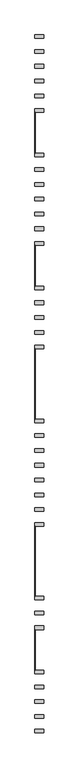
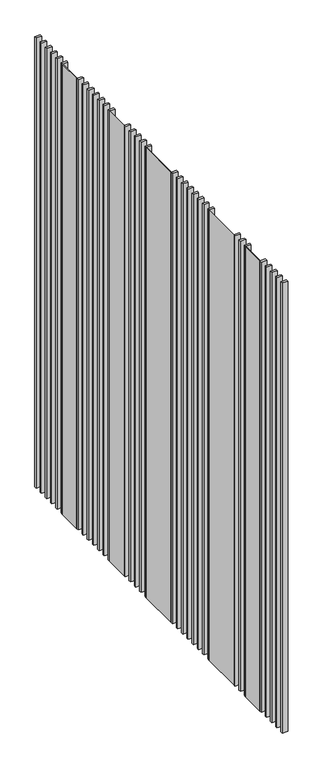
"""IFC4 building model written with IfcOpenShell, lengths in millimetres: railing geometry, 東向隔柵2 : 東向隔柵."""

from ifc_helpers import new_model, si_unit, frame, origin, place, context, project, spatial, polyline, outline, extrude, source, transform, mapped, element, save


def railing_ae81b5d6(model_context):
    return source(origin(), model_context, "Body", "SweptSolid", [
        extrude(outline(polyline([(30465.8689947, 6780.1270122), (30465.8689947, 8160.1270122), (30476.9357364, 8160.1270122), (30476.9357364, 6780.1270122), (30465.8689947, 6780.1270122)])), frame((0.0, 0.0, 2700.0), z_axis=(0.0, 0.0, 1.0), x_axis=(1.0, 0.0, 0.0)), (0.0, 0.0, 1.0), 26200.0),
        extrude(outline(polyline([(30465.8689947, 2276.4950739), (30465.8689947, 3660.1270122), (30476.9357364, 3660.1270122), (30476.9357364, 2276.4950739), (30465.8689947, 2276.4950739)])), frame((0.0, 0.0, 2700.0), z_axis=(0.0, 0.0, 1.0), x_axis=(1.0, 0.0, 0.0)), (0.0, 0.0, 1.0), 26200.0),
        extrude(outline(polyline([(30465.8689947, -2223.5049261), (30465.8689947, 156.4950739), (30476.9357364, 156.4950739), (30476.9357364, -2223.5049261), (30465.8689947, -2223.5049261)])), frame((0.0, 0.0, 2700.0), z_axis=(0.0, 0.0, 1.0), x_axis=(1.0, 0.0, 0.0)), (0.0, 0.0, 1.0), 26200.0),
        extrude(outline(polyline([(30465.8689947, -8223.5049261), (30465.8689947, -5843.5049261), (30476.9357364, -5843.5049261), (30476.9357364, -8223.5049261), (30465.8689947, -8223.5049261)])), frame((0.0, 0.0, 2700.0), z_axis=(0.0, 0.0, 1.0), x_axis=(1.0, 0.0, 0.0)), (0.0, 0.0, 1.0), 26200.0),
        extrude(outline(polyline([(30465.8689947, -10723.5049261), (30465.8689947, -9343.5049261), (30476.9357364, -9343.5049261), (30476.9357364, -10723.5049261), (30465.8689947, -10723.5049261)])), frame((0.0, 0.0, 2700.0), z_axis=(0.0, 0.0, 1.0), x_axis=(1.0, 0.0, 0.0)), (0.0, 0.0, 1.0), 26200.0),
        extrude(outline(polyline([(30465.8689947, 10660.1270122), (30465.8689947, 10780.1270122), (30765.8689947, 10780.1270122), (30765.8689947, 10660.1270122), (30465.8689947, 10660.1270122)])), frame((0.0, 0.0, 2700.0), z_axis=(0.0, 0.0, 1.0), x_axis=(1.0, 0.0, 0.0)), (0.0, 0.0, 1.0), 26200.0),
        extrude(outline(polyline([(30465.8689947, 10160.1270122), (30465.8689947, 10280.1270122), (30765.8689947, 10280.1270122), (30765.8689947, 10160.1270122), (30465.8689947, 10160.1270122)])), frame((0.0, 0.0, 2700.0), z_axis=(0.0, 0.0, 1.0), x_axis=(1.0, 0.0, 0.0)), (0.0, 0.0, 1.0), 26200.0),
        extrude(outline(polyline([(30465.8689947, 9660.1270122), (30465.8689947, 9780.1270122), (30765.8689947, 9780.1270122), (30765.8689947, 9660.1270122), (30465.8689947, 9660.1270122)])), frame((0.0, 0.0, 2700.0), z_axis=(0.0, 0.0, 1.0), x_axis=(1.0, 0.0, 0.0)), (0.0, 0.0, 1.0), 26200.0),
        extrude(outline(polyline([(30465.8689947, 9160.1270122), (30465.8689947, 9280.1270122), (30765.8689947, 9280.1270122), (30765.8689947, 9160.1270122), (30465.8689947, 9160.1270122)])), frame((0.0, 0.0, 2700.0), z_axis=(0.0, 0.0, 1.0), x_axis=(1.0, 0.0, 0.0)), (0.0, 0.0, 1.0), 26200.0),
        extrude(outline(polyline([(30465.8689947, 8660.1270122), (30465.8689947, 8780.1270122), (30765.8689947, 8780.1270122), (30765.8689947, 8660.1270122), (30465.8689947, 8660.1270122)])), frame((0.0, 0.0, 2700.0), z_axis=(0.0, 0.0, 1.0), x_axis=(1.0, 0.0, 0.0)), (0.0, 0.0, 1.0), 26200.0),
        extrude(outline(polyline([(30465.8689947, 8160.1270122), (30465.8689947, 8280.1270122), (30765.8689947, 8280.1270122), (30765.8689947, 8160.1270122), (30465.8689947, 8160.1270122)])), frame((0.0, 0.0, 2700.0), z_axis=(0.0, 0.0, 1.0), x_axis=(1.0, 0.0, 0.0)), (0.0, 0.0, 1.0), 26200.0),
        extrude(outline(polyline([(30465.8689947, 6660.1270122), (30465.8689947, 6780.1270122), (30765.8689947, 6780.1270122), (30765.8689947, 6660.1270122), (30465.8689947, 6660.1270122)])), frame((0.0, 0.0, 2700.0), z_axis=(0.0, 0.0, 1.0), x_axis=(1.0, 0.0, 0.0)), (0.0, 0.0, 1.0), 26200.0),
        extrude(outline(polyline([(30465.8689947, 6160.1270122), (30465.8689947, 6280.1270122), (30765.8689947, 6280.1270122), (30765.8689947, 6160.1270122), (30465.8689947, 6160.1270122)])), frame((0.0, 0.0, 2700.0), z_axis=(0.0, 0.0, 1.0), x_axis=(1.0, 0.0, 0.0)), (0.0, 0.0, 1.0), 26200.0),
        extrude(outline(polyline([(30465.8689947, 5660.1270122), (30465.8689947, 5780.1270122), (30765.8689947, 5780.1270122), (30765.8689947, 5660.1270122), (30465.8689947, 5660.1270122)])), frame((0.0, 0.0, 2700.0), z_axis=(0.0, 0.0, 1.0), x_axis=(1.0, 0.0, 0.0)), (0.0, 0.0, 1.0), 26200.0),
        extrude(outline(polyline([(30465.8689947, 5160.1270122), (30465.8689947, 5280.1270122), (30765.8689947, 5280.1270122), (30765.8689947, 5160.1270122), (30465.8689947, 5160.1270122)])), frame((0.0, 0.0, 2700.0), z_axis=(0.0, 0.0, 1.0), x_axis=(1.0, 0.0, 0.0)), (0.0, 0.0, 1.0), 26200.0),
        extrude(outline(polyline([(30465.8689947, 4660.1270122), (30465.8689947, 4780.1270122), (30765.8689947, 4780.1270122), (30765.8689947, 4660.1270122), (30465.8689947, 4660.1270122)])), frame((0.0, 0.0, 2700.0), z_axis=(0.0, 0.0, 1.0), x_axis=(1.0, 0.0, 0.0)), (0.0, 0.0, 1.0), 26200.0),
        extrude(outline(polyline([(30465.8689947, 4160.1270122), (30465.8689947, 4280.1270122), (30765.8689947, 4280.1270122), (30765.8689947, 4160.1270122), (30465.8689947, 4160.1270122)])), frame((0.0, 0.0, 2700.0), z_axis=(0.0, 0.0, 1.0), x_axis=(1.0, 0.0, 0.0)), (0.0, 0.0, 1.0), 26200.0),
        extrude(outline(polyline([(30465.8689947, 3660.1270122), (30465.8689947, 3780.1270122), (30765.8689947, 3780.1270122), (30765.8689947, 3660.1270122), (30465.8689947, 3660.1270122)])), frame((0.0, 0.0, 2700.0), z_axis=(0.0, 0.0, 1.0), x_axis=(1.0, 0.0, 0.0)), (0.0, 0.0, 1.0), 26200.0),
        extrude(outline(polyline([(30465.8689947, 2156.4950739), (30465.8689947, 2276.4950739), (30765.8689947, 2276.4950739), (30765.8689947, 2156.4950739), (30465.8689947, 2156.4950739)])), frame((0.0, 0.0, 2700.0), z_axis=(0.0, 0.0, 1.0), x_axis=(1.0, 0.0, 0.0)), (0.0, 0.0, 1.0), 26200.0),
        extrude(outline(polyline([(30465.8689947, 1656.4950739), (30465.8689947, 1776.4950739), (30765.8689947, 1776.4950739), (30765.8689947, 1656.4950739), (30465.8689947, 1656.4950739)])), frame((0.0, 0.0, 2700.0), z_axis=(0.0, 0.0, 1.0), x_axis=(1.0, 0.0, 0.0)), (0.0, 0.0, 1.0), 26200.0),
        extrude(outline(polyline([(30465.8689947, 1156.4950739), (30465.8689947, 1276.4950739), (30765.8689947, 1276.4950739), (30765.8689947, 1156.4950739), (30465.8689947, 1156.4950739)])), frame((0.0, 0.0, 2700.0), z_axis=(0.0, 0.0, 1.0), x_axis=(1.0, 0.0, 0.0)), (0.0, 0.0, 1.0), 26200.0),
        extrude(outline(polyline([(30465.8689947, 656.4950739), (30465.8689947, 776.4950739), (30765.8689947, 776.4950739), (30765.8689947, 656.4950739), (30465.8689947, 656.4950739)])), frame((0.0, 0.0, 2700.0), z_axis=(0.0, 0.0, 1.0), x_axis=(1.0, 0.0, 0.0)), (0.0, 0.0, 1.0), 26200.0),
        extrude(outline(polyline([(30465.8689947, 156.4950739), (30465.8689947, 276.4950739), (30765.8689947, 276.4950739), (30765.8689947, 156.4950739), (30465.8689947, 156.4950739)])), frame((0.0, 0.0, 2700.0), z_axis=(0.0, 0.0, 1.0), x_axis=(1.0, 0.0, 0.0)), (0.0, 0.0, 1.0), 26200.0),
        extrude(outline(polyline([(30465.8689947, -2343.5049261), (30465.8689947, -2223.5049261), (30765.8689947, -2223.5049261), (30765.8689947, -2343.5049261), (30465.8689947, -2343.5049261)])), frame((0.0, 0.0, 2700.0), z_axis=(0.0, 0.0, 1.0), x_axis=(1.0, 0.0, 0.0)), (0.0, 0.0, 1.0), 26200.0),
        extrude(outline(polyline([(30465.8689947, -2843.5049261), (30465.8689947, -2723.5049261), (30765.8689947, -2723.5049261), (30765.8689947, -2843.5049261), (30465.8689947, -2843.5049261)])), frame((0.0, 0.0, 2700.0), z_axis=(0.0, 0.0, 1.0), x_axis=(1.0, 0.0, 0.0)), (0.0, 0.0, 1.0), 26200.0),
        extrude(outline(polyline([(30465.8689947, -3343.5049261), (30465.8689947, -3223.5049261), (30765.8689947, -3223.5049261), (30765.8689947, -3343.5049261), (30465.8689947, -3343.5049261)])), frame((0.0, 0.0, 2700.0), z_axis=(0.0, 0.0, 1.0), x_axis=(1.0, 0.0, 0.0)), (0.0, 0.0, 1.0), 26200.0),
        extrude(outline(polyline([(30465.8689947, -3843.5049261), (30465.8689947, -3723.5049261), (30765.8689947, -3723.5049261), (30765.8689947, -3843.5049261), (30465.8689947, -3843.5049261)])), frame((0.0, 0.0, 2700.0), z_axis=(0.0, 0.0, 1.0), x_axis=(1.0, 0.0, 0.0)), (0.0, 0.0, 1.0), 26200.0),
        extrude(outline(polyline([(30465.8689947, -4343.5049261), (30465.8689947, -4223.5049261), (30765.8689947, -4223.5049261), (30765.8689947, -4343.5049261), (30465.8689947, -4343.5049261)])), frame((0.0, 0.0, 2700.0), z_axis=(0.0, 0.0, 1.0), x_axis=(1.0, 0.0, 0.0)), (0.0, 0.0, 1.0), 26200.0),
        extrude(outline(polyline([(30465.8689947, -4843.5049261), (30465.8689947, -4723.5049261), (30765.8689947, -4723.5049261), (30765.8689947, -4843.5049261), (30465.8689947, -4843.5049261)])), frame((0.0, 0.0, 2700.0), z_axis=(0.0, 0.0, 1.0), x_axis=(1.0, 0.0, 0.0)), (0.0, 0.0, 1.0), 26200.0),
        extrude(outline(polyline([(30465.8689947, -5343.5049261), (30465.8689947, -5223.5049261), (30765.8689947, -5223.5049261), (30765.8689947, -5343.5049261), (30465.8689947, -5343.5049261)])), frame((0.0, 0.0, 2700.0), z_axis=(0.0, 0.0, 1.0), x_axis=(1.0, 0.0, 0.0)), (0.0, 0.0, 1.0), 26200.0),
        extrude(outline(polyline([(30465.8689947, -5843.5049261), (30465.8689947, -5723.5049261), (30765.8689947, -5723.5049261), (30765.8689947, -5843.5049261), (30465.8689947, -5843.5049261)])), frame((0.0, 0.0, 2700.0), z_axis=(0.0, 0.0, 1.0), x_axis=(1.0, 0.0, 0.0)), (0.0, 0.0, 1.0), 26200.0),
        extrude(outline(polyline([(30465.8689947, -8343.5049261), (30465.8689947, -8223.5049261), (30765.8689947, -8223.5049261), (30765.8689947, -8343.5049261), (30465.8689947, -8343.5049261)])), frame((0.0, 0.0, 2700.0), z_axis=(0.0, 0.0, 1.0), x_axis=(1.0, 0.0, 0.0)), (0.0, 0.0, 1.0), 26200.0),
        extrude(outline(polyline([(30465.8689947, -8843.5049261), (30465.8689947, -8723.5049261), (30765.8689947, -8723.5049261), (30765.8689947, -8843.5049261), (30465.8689947, -8843.5049261)])), frame((0.0, 0.0, 2700.0), z_axis=(0.0, 0.0, 1.0), x_axis=(1.0, 0.0, 0.0)), (0.0, 0.0, 1.0), 26200.0),
        extrude(outline(polyline([(30465.8689947, -9343.5049261), (30465.8689947, -9223.5049261), (30765.8689947, -9223.5049261), (30765.8689947, -9343.5049261), (30465.8689947, -9343.5049261)])), frame((0.0, 0.0, 2700.0), z_axis=(0.0, 0.0, 1.0), x_axis=(1.0, 0.0, 0.0)), (0.0, 0.0, 1.0), 26200.0),
        extrude(outline(polyline([(30465.8689947, -10843.5049261), (30465.8689947, -10723.5049261), (30765.8689947, -10723.5049261), (30765.8689947, -10843.5049261), (30465.8689947, -10843.5049261)])), frame((0.0, 0.0, 2700.0), z_axis=(0.0, 0.0, 1.0), x_axis=(1.0, 0.0, 0.0)), (0.0, 0.0, 1.0), 26200.0),
        extrude(outline(polyline([(30465.8689947, -11343.5049261), (30465.8689947, -11223.5049261), (30765.8689947, -11223.5049261), (30765.8689947, -11343.5049261), (30465.8689947, -11343.5049261)])), frame((0.0, 0.0, 2700.0), z_axis=(0.0, 0.0, 1.0), x_axis=(1.0, 0.0, 0.0)), (0.0, 0.0, 1.0), 26200.0),
        extrude(outline(polyline([(30465.8689947, -11843.5049261), (30465.8689947, -11723.5049261), (30765.8689947, -11723.5049261), (30765.8689947, -11843.5049261), (30465.8689947, -11843.5049261)])), frame((0.0, 0.0, 2700.0), z_axis=(0.0, 0.0, 1.0), x_axis=(1.0, 0.0, 0.0)), (0.0, 0.0, 1.0), 26200.0),
        extrude(outline(polyline([(30465.8689947, -12343.5049261), (30465.8689947, -12223.5049261), (30765.8689947, -12223.5049261), (30765.8689947, -12343.5049261), (30465.8689947, -12343.5049261)])), frame((0.0, 0.0, 2700.0), z_axis=(0.0, 0.0, 1.0), x_axis=(1.0, 0.0, 0.0)), (0.0, 0.0, 1.0), 26200.0),
        extrude(outline(polyline([(30465.8689947, -12843.5049261), (30465.8689947, -12723.5049261), (30765.8689947, -12723.5049261), (30765.8689947, -12843.5049261), (30465.8689947, -12843.5049261)])), frame((0.0, 0.0, 2700.0), z_axis=(0.0, 0.0, 1.0), x_axis=(1.0, 0.0, 0.0)), (0.0, 0.0, 1.0), 26200.0),
    ])


if __name__ == "__main__":
    model = new_model("IFC4")
    model_context = context("Model", 3, world=origin())
    ifc_project = project(units=[si_unit("LENGTHUNIT", "METRE", prefix="MILLI")], contexts=[model_context])
    site = spatial("IfcSite", under=ifc_project)
    building = spatial("IfcBuilding", under=site)
    placement = place(None, origin())
    railing_shape = railing_ae81b5d6(model_context)
    element("IfcRailing", 1, ObjectType="東向隔柵2 : 東向隔柵", at=placement, inside=building, context=model_context, shape_type="MappedRepresentation", body=[
        mapped(railing_shape, transform((0.0, 0.0, 0.0), x_axis=(1.0, 0.0, 0.0), y_axis=(0.0, 1.0, 0.0), z_axis=(0.0, 0.0, 1.0))),
    ])
    save(model, "model.ifc")
